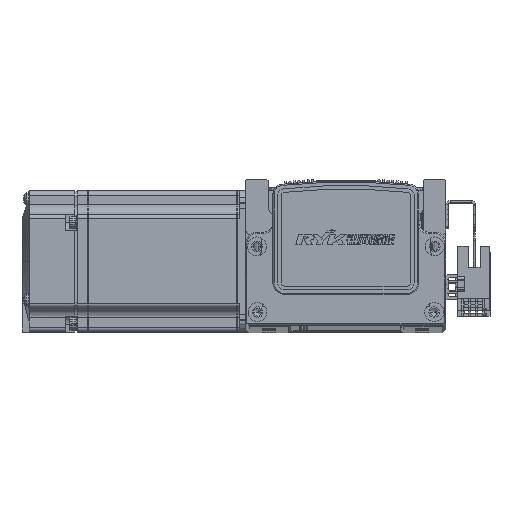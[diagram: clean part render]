
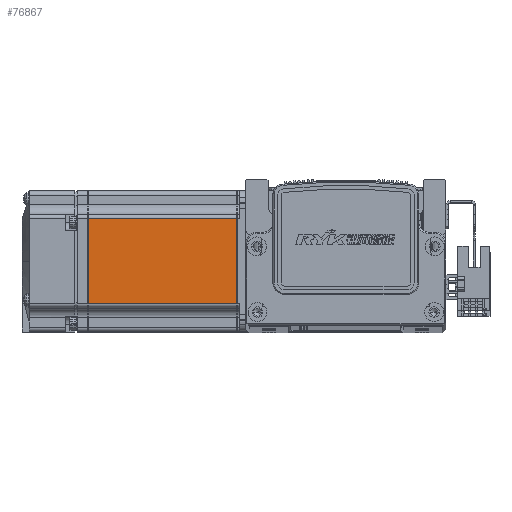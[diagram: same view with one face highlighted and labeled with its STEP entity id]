
A CAD part, top view. The second image highlights one B-rep face of the part: STEP entity #76867.
In plain terms, the highlighted planar face has unit normal (0, 0, 1) as drawn and (0, 0, -1) by its records, which use the part's own axes.
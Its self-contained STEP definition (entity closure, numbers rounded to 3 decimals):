
#2375 = ORIENTED_EDGE ( 'NONE', *, *, #30478, .T. ) ;
#2435 = ORIENTED_EDGE ( 'NONE', *, *, #30474, .T. ) ;
#2473 = ORIENTED_EDGE ( 'NONE', *, *, #30518, .T. ) ;
#2495 = ORIENTED_EDGE ( 'NONE', *, *, #30508, .T. ) ;
#16875 = VERTEX_POINT ( 'NONE', #44943 ) ;
#16888 = VERTEX_POINT ( 'NONE', #44900 ) ;
#16935 = VERTEX_POINT ( 'NONE', #45006 ) ;
#16950 = VERTEX_POINT ( 'NONE', #44978 ) ;
#27281 = VECTOR ( 'NONE', #65633, 1000. ) ;
#27282 = LINE ( 'NONE', #65603, #27281 ) ;
#27300 = LINE ( 'NONE', #65605, #27357 ) ;
#27357 = VECTOR ( 'NONE', #65624, 1000. ) ;
#27392 = LINE ( 'NONE', #65779, #27456 ) ;
#27446 = LINE ( 'NONE', #65725, #27458 ) ;
#27456 = VECTOR ( 'NONE', #65784, 1000. ) ;
#27458 = VECTOR ( 'NONE', #65708, 1000. ) ;
#30474 = EDGE_CURVE ( 'NONE', #16875, #16888, #27300, .T. ) ;
#30478 = EDGE_CURVE ( 'NONE', #16950, #16875, #27282, .T. ) ;
#30508 = EDGE_CURVE ( 'NONE', #16935, #16950, #27446, .T. ) ;
#30518 = EDGE_CURVE ( 'NONE', #16888, #16935, #27392, .T. ) ;
#42131 = EDGE_LOOP ( 'NONE', ( #2375, #2435, #2473, #2495 ) ) ;
#44900 = CARTESIAN_POINT ( 'NONE',  ( -70.95, -18., -30. ) ) ;
#44943 = CARTESIAN_POINT ( 'NONE',  ( -7.75, -18., -30. ) ) ;
#44978 = CARTESIAN_POINT ( 'NONE',  ( -7.75, 18., -30. ) ) ;
#45006 = CARTESIAN_POINT ( 'NONE',  ( -70.95, 18., -30. ) ) ;
#52134 = FACE_OUTER_BOUND ( 'NONE', #42131, .T. ) ;
#54352 = CARTESIAN_POINT ( 'NONE',  ( -6.5, 25., -30. ) ) ;
#54361 = PLANE ( 'NONE',  #72603 ) ;
#54363 = DIRECTION ( 'NONE',  ( 0., 0., -1. ) ) ;
#54365 = DIRECTION ( 'NONE',  ( -1., 0., 0. ) ) ;
#65603 = CARTESIAN_POINT ( 'NONE',  ( -7.75, 25., -30. ) ) ;
#65605 = CARTESIAN_POINT ( 'NONE',  ( -6.5, -18., -30. ) ) ;
#65624 = DIRECTION ( 'NONE',  ( -1., 0., 0. ) ) ;
#65633 = DIRECTION ( 'NONE',  ( 0., -1., 0. ) ) ;
#65708 = DIRECTION ( 'NONE',  ( 1., 0., 0. ) ) ;
#65725 = CARTESIAN_POINT ( 'NONE',  ( -6.5, 18., -30. ) ) ;
#65779 = CARTESIAN_POINT ( 'NONE',  ( -70.95, 25., -30. ) ) ;
#65784 = DIRECTION ( 'NONE',  ( 0., 1., 0. ) ) ;
#72603 = AXIS2_PLACEMENT_3D ( 'NONE', #54352, #54363, #54365 ) ;
#76867 = ADVANCED_FACE ( 'NONE', ( #52134 ), #54361, .T. ) ;
